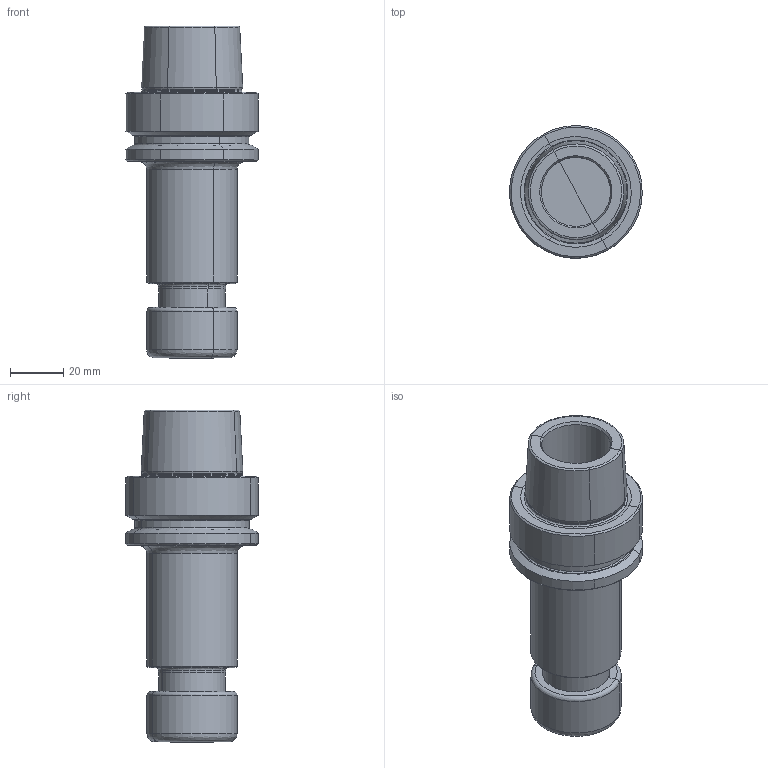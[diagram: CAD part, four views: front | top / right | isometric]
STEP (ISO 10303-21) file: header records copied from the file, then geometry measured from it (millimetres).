
FILE_DESCRIPTION(('CATIA V5 STEP','CAx-IF Rec.Pracs.--- Model Styling and Organization---1.2---2011-12-15'),'2;1');
FILE_NAME('\\nas01\drv1\utils\eitdev\rte\eit\transmagicconvert\db\out\635926035916835942\4561211 L.stp','2016-03-03T10:06:47+00:00',('none'),('none'),'CATIA Version 5 Release 21 SP 5 (IN-10)','CATIA V5 STEP AP214','none');
FILE_SCHEMA(('AUTOMOTIVE_DESIGN { 1 0 10303 214 1 1 1 1 }'));
Length unit declared in the file: millimetre
Products named in the file (1): HSK A 50 ER20X100
Bounding box: 49.91 x 49.99 x 125.05 mm (x, y, z)
Volume: 111113.2 mm3; surface area: 24345.3 mm2
Topology: 1 solids, 1 shells, 103 faces, 206 edges, 105 vertices
Faces by surface type: revolution 81, plane 22
Entity records: 3193 total; most frequent: CARTESIAN_POINT 1297, ORIENTED_EDGE 412, DIRECTION 234, EDGE_CURVE 206, B_SPLINE_CURVE_WITH_KNOTS 162, AXIS2_PLACEMENT_3D 120, CIRCLE 105, VERTEX_POINT 105
